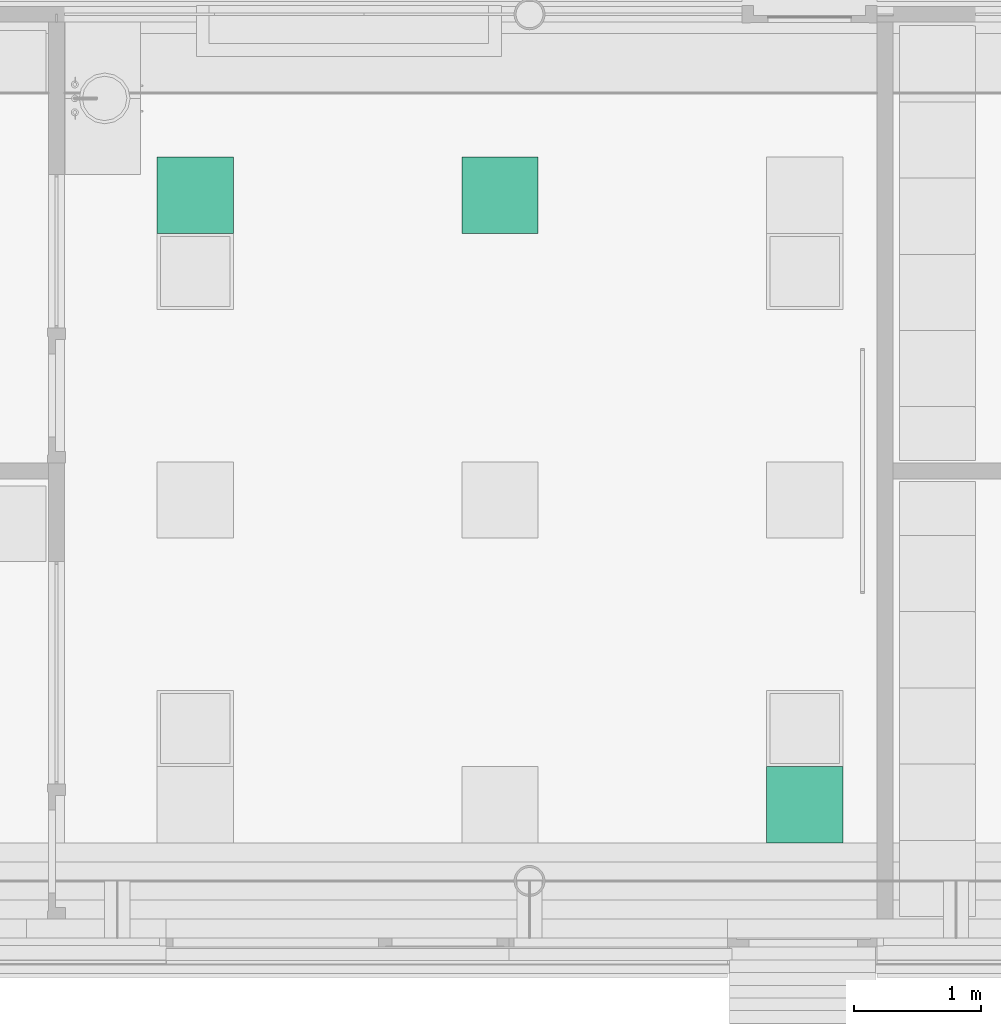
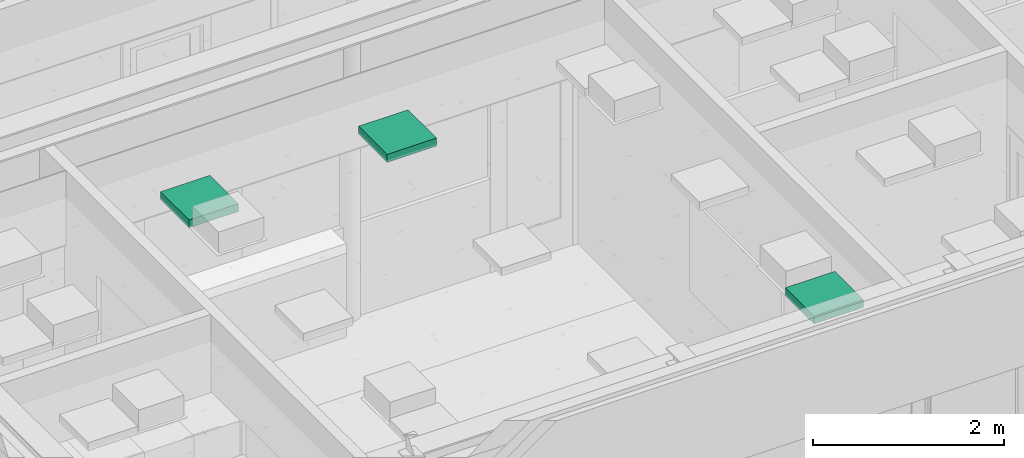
# One storey, part 186 of 347: 3 flow terminals.
"""IFC2X3 building model written with IfcOpenShell, lengths in millimetres."""

from ifc_helpers import new_model, entity, si_unit, converted_unit, derived_unit, money_unit, direction, frame, origin_with_axes, place, context, subcontext, project, spatial, open_shell, faceted_brep, surface_model, source, transform, mapped, type_object, type_shapes, element, save


model = new_model("IFC2X3")

# Units and contexts
model_context = context("Model", 3, precision=0.01, world=origin_with_axes(), true_north=direction((0.0, 1.0)))
plan_context = context("Plan", 3, precision=0.01, world=origin_with_axes(), true_north=direction((0.0, 1.0)))
body_context = subcontext(model_context, "Body", "Model", "MODEL_VIEW")
ifc_project = project(units=[si_unit("LENGTHUNIT", "METRE", prefix="MILLI"), si_unit("AREAUNIT", "SQUARE_METRE"), si_unit("VOLUMEUNIT", "CUBIC_METRE"), converted_unit("PLANEANGLEUNIT", "DEGREE", entity("IfcPlaneAngleMeasure", 0.0174532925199), si_unit("PLANEANGLEUNIT", "RADIAN"), dimensions=[0, 0, 0, 0, 0, 0, 0]), money_unit("EUR"), converted_unit("TIMEUNIT", "Year", entity("IfcTimeMeasure", 31556926.0), si_unit("TIMEUNIT", "SECOND"), dimensions=[0, 0, 1, 0, 0, 0, 0]), si_unit("MASSUNIT", "GRAM", prefix="KILO"), si_unit("THERMODYNAMICTEMPERATUREUNIT", "DEGREE_CELSIUS"), si_unit("LUMINOUSINTENSITYUNIT", "LUMEN"), si_unit("ENERGYUNIT", "JOULE", prefix="MEGA"), derived_unit("THERMALCONDUCTANCEUNIT", [(si_unit("POWERUNIT", "WATT"), 1), (si_unit("LENGTHUNIT", "METRE"), -1), (si_unit("THERMODYNAMICTEMPERATUREUNIT", "KELVIN"), -1)]), derived_unit("SPECIFICHEATCAPACITYUNIT", [(si_unit("ENERGYUNIT", "JOULE"), 1), (si_unit("MASSUNIT", "GRAM", prefix="KILO"), -1), (si_unit("THERMODYNAMICTEMPERATUREUNIT", "KELVIN"), -1)]), derived_unit("MASSDENSITYUNIT", [(si_unit("MASSUNIT", "GRAM", prefix="KILO"), 1), (si_unit("VOLUMEUNIT", "CUBIC_METRE"), -1)])], contexts=[model_context, plan_context])

# Site, building, storey
site_placement = place(None, origin_with_axes())
site = spatial("IfcSite", under=ifc_project, at=site_placement, Name="Site", CompositionType="ELEMENT")
building_placement = place(site_placement, origin_with_axes())
building = spatial("IfcBuilding", under=site, at=building_placement, Name="Naam gebouw", CompositionType="ELEMENT")
storey_placement = place(building_placement, origin_with_axes())
storey = spatial("IfcBuildingStorey", under=building, at=storey_placement, Name="begane grond", CompositionType="ELEMENT", Elevation=0.0)

# Flow terminals
lamp_type = type_object("IfcLampType", Name="TL plafond 25", PredefinedType="NOTDEFINED")
shared_shape = source(origin_with_axes(), body_context, "Body", "SurfaceModel", [
    faceted_brep([(0.0, 0.0, -100.0), (600.0, 0.0, -100.0), (600.0, 0.0, 0.0), (0.0, 0.0, 0.0), (0.0, 600.0, -100.0), (600.0, 600.0, -100.0), (40.0, 40.0, -100.0), (560.0, 40.0, -100.0), (560.0, 560.0, -100.0), (40.0, 560.0, -100.0), (600.0, 600.0, 0.0), (0.0, 600.0, 0.0), (40.0, 40.0, 0.0), (40.0, 560.0, 0.0), (560.0, 560.0, 0.0), (560.0, 40.0, 0.0)], [[[0, 1, 2, 3]], [[0, 4, 5, 1], [6, 7, 8, 9]], [[1, 5, 10, 2]], [[3, 2, 10, 11], [12, 13, 14, 15]], [[4, 0, 3, 11]], [[5, 4, 11, 10]], [[7, 6, 12, 15]], [[8, 7, 15, 14]], [[9, 8, 14, 13]], [[6, 9, 13, 12]]]),
    faceted_brep([(40.0, 40.0, -16.3333333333), (560.0, 40.0, -16.3333333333), (560.0, 40.0, 0.0), (40.0, 40.0, 0.0), (40.0, 560.0, -16.3333333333), (560.0, 560.0, -16.3333333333), (560.0, 560.0, 0.0), (40.0, 560.0, 0.0)], [[[0, 1, 2, 3]], [[0, 4, 5, 1]], [[1, 5, 6, 2]], [[3, 2, 6, 7]], [[4, 0, 3, 7]], [[5, 4, 7, 6]]]),
    surface_model("IfcShellBasedSurfaceModel", [(559.0, 41.0, -100.0), (40.0, 41.0, -100.0), (40.0, 559.0, -100.0), (559.0, 559.0, -100.0)], [open_shell([[[0, 1, 2, 3]]])]),
    faceted_brep([(40.0, 40.0, -100.0), (560.0, 40.0, -100.0), (560.0, 40.0, -60.0), (40.0, 40.0, -60.0), (40.0, 560.0, -100.0), (560.0, 560.0, -100.0), (41.0, 41.0, -100.0), (559.0, 41.0, -100.0), (559.0, 559.0, -100.0), (41.0, 559.0, -100.0), (560.0, 560.0, -60.0), (40.0, 560.0, -60.0), (41.0, 41.0, -60.0), (41.0, 559.0, -60.0), (559.0, 559.0, -60.0), (559.0, 41.0, -60.0)], [[[0, 1, 2, 3]], [[0, 4, 5, 1], [6, 7, 8, 9]], [[1, 5, 10, 2]], [[3, 2, 10, 11], [12, 13, 14, 15]], [[4, 0, 3, 11]], [[5, 4, 11, 10]], [[7, 6, 12, 15]], [[8, 7, 15, 14]], [[9, 8, 14, 13]], [[6, 9, 13, 12]]]),
    faceted_brep([(40.0, 144.0, -48.3333333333), (40.0, 149.740251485, -47.191526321), (560.0, 149.740251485, -47.191526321), (560.0, 144.0, -48.3333333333), (40.0, 138.259748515, -47.191526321), (40.0, 133.393398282, -43.9399350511), (40.0, 130.141807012, -39.0735848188), (40.0, 129.0, -33.3333333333), (40.0, 130.141807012, -27.5930818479), (40.0, 133.393398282, -22.7267316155), (40.0, 138.259748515, -19.4751403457), (40.0, 144.0, -18.3333333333), (40.0, 149.740251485, -19.4751403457), (40.0, 154.606601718, -22.7267316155), (40.0, 157.858192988, -27.5930818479), (40.0, 159.0, -33.3333333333), (40.0, 157.858192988, -39.0735848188), (40.0, 154.606601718, -43.9399350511), (40.0, 144.0, -46.3333333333), (40.0, 148.974884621, -45.343767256), (40.0, 153.192388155, -42.5257214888), (40.0, 156.010433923, -38.3082179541), (40.0, 157.0, -33.3333333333), (40.0, 156.010433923, -28.3584487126), (40.0, 153.192388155, -24.1409451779), (40.0, 148.974884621, -21.3228994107), (40.0, 144.0, -20.3333333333), (40.0, 139.025115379, -21.3228994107), (40.0, 134.807611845, -24.1409451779), (40.0, 131.989566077, -28.3584487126), (40.0, 131.0, -33.3333333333), (40.0, 131.989566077, -38.3082179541), (40.0, 134.807611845, -42.5257214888), (40.0, 139.025115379, -45.343767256), (560.0, 154.606601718, -43.9399350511), (560.0, 157.858192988, -39.0735848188), (560.0, 159.0, -33.3333333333), (560.0, 157.858192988, -27.5930818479), (560.0, 154.606601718, -22.7267316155), (560.0, 149.740251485, -19.4751403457), (560.0, 144.0, -18.3333333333), (560.0, 138.259748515, -19.4751403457), (560.0, 133.393398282, -22.7267316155), (560.0, 130.141807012, -27.5930818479), (560.0, 129.0, -33.3333333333), (560.0, 130.141807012, -39.0735848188), (560.0, 133.393398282, -43.9399350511), (560.0, 138.259748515, -47.191526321), (560.0, 144.0, -46.3333333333), (560.0, 139.025115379, -45.343767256), (560.0, 134.807611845, -42.5257214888), (560.0, 131.989566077, -38.3082179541), (560.0, 131.0, -33.3333333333), (560.0, 131.989566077, -28.3584487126), (560.0, 134.807611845, -24.1409451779), (560.0, 139.025115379, -21.3228994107), (560.0, 144.0, -20.3333333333), (560.0, 148.974884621, -21.3228994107), (560.0, 153.192388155, -24.1409451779), (560.0, 156.010433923, -28.3584487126), (560.0, 157.0, -33.3333333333), (560.0, 156.010433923, -38.3082179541), (560.0, 153.192388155, -42.5257214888), (560.0, 148.974884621, -45.343767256)], [[[0, 1, 2, 3]], [[0, 4, 5, 6, 7, 8, 9, 10, 11, 12, 13, 14, 15, 16, 17, 1], [18, 19, 20, 21, 22, 23, 24, 25, 26, 27, 28, 29, 30, 31, 32, 33]], [[1, 17, 34, 2]], [[3, 2, 34, 35, 36, 37, 38, 39, 40, 41, 42, 43, 44, 45, 46, 47], [48, 49, 50, 51, 52, 53, 54, 55, 56, 57, 58, 59, 60, 61, 62, 63]], [[4, 0, 3, 47]], [[5, 4, 47, 46]], [[6, 5, 46, 45]], [[7, 6, 45, 44]], [[8, 7, 44, 43]], [[9, 8, 43, 42]], [[10, 9, 42, 41]], [[11, 10, 41, 40]], [[12, 11, 40, 39]], [[13, 12, 39, 38]], [[14, 13, 38, 37]], [[15, 14, 37, 36]], [[16, 15, 36, 35]], [[17, 16, 35, 34]], [[19, 18, 48, 63]], [[20, 19, 63, 62]], [[21, 20, 62, 61]], [[22, 21, 61, 60]], [[23, 22, 60, 59]], [[24, 23, 59, 58]], [[25, 24, 58, 57]], [[26, 25, 57, 56]], [[27, 26, 56, 55]], [[28, 27, 55, 54]], [[29, 28, 54, 53]], [[30, 29, 53, 52]], [[31, 30, 52, 51]], [[32, 31, 51, 50]], [[33, 32, 50, 49]], [[18, 33, 49, 48]]]),
    faceted_brep([(40.0, 248.0, -48.3333333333), (40.0, 253.740251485, -47.191526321), (560.0, 253.740251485, -47.191526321), (560.0, 248.0, -48.3333333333), (40.0, 242.259748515, -47.191526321), (40.0, 237.393398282, -43.9399350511), (40.0, 234.141807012, -39.0735848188), (40.0, 233.0, -33.3333333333), (40.0, 234.141807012, -27.5930818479), (40.0, 237.393398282, -22.7267316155), (40.0, 242.259748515, -19.4751403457), (40.0, 248.0, -18.3333333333), (40.0, 253.740251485, -19.4751403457), (40.0, 258.606601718, -22.7267316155), (40.0, 261.858192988, -27.5930818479), (40.0, 263.0, -33.3333333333), (40.0, 261.858192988, -39.0735848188), (40.0, 258.606601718, -43.9399350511), (40.0, 248.0, -46.3333333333), (40.0, 252.974884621, -45.343767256), (40.0, 257.192388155, -42.5257214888), (40.0, 260.010433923, -38.3082179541), (40.0, 261.0, -33.3333333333), (40.0, 260.010433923, -28.3584487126), (40.0, 257.192388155, -24.1409451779), (40.0, 252.974884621, -21.3228994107), (40.0, 248.0, -20.3333333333), (40.0, 243.025115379, -21.3228994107), (40.0, 238.807611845, -24.1409451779), (40.0, 235.989566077, -28.3584487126), (40.0, 235.0, -33.3333333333), (40.0, 235.989566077, -38.3082179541), (40.0, 238.807611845, -42.5257214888), (40.0, 243.025115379, -45.343767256), (560.0, 258.606601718, -43.9399350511), (560.0, 261.858192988, -39.0735848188), (560.0, 263.0, -33.3333333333), (560.0, 261.858192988, -27.5930818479), (560.0, 258.606601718, -22.7267316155), (560.0, 253.740251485, -19.4751403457), (560.0, 248.0, -18.3333333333), (560.0, 242.259748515, -19.4751403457), (560.0, 237.393398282, -22.7267316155), (560.0, 234.141807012, -27.5930818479), (560.0, 233.0, -33.3333333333), (560.0, 234.141807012, -39.0735848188), (560.0, 237.393398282, -43.9399350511), (560.0, 242.259748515, -47.191526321), (560.0, 248.0, -46.3333333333), (560.0, 243.025115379, -45.343767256), (560.0, 238.807611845, -42.5257214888), (560.0, 235.989566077, -38.3082179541), (560.0, 235.0, -33.3333333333), (560.0, 235.989566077, -28.3584487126), (560.0, 238.807611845, -24.1409451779), (560.0, 243.025115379, -21.3228994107), (560.0, 248.0, -20.3333333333), (560.0, 252.974884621, -21.3228994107), (560.0, 257.192388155, -24.1409451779), (560.0, 260.010433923, -28.3584487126), (560.0, 261.0, -33.3333333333), (560.0, 260.010433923, -38.3082179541), (560.0, 257.192388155, -42.5257214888), (560.0, 252.974884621, -45.343767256)], [[[0, 1, 2, 3]], [[0, 4, 5, 6, 7, 8, 9, 10, 11, 12, 13, 14, 15, 16, 17, 1], [18, 19, 20, 21, 22, 23, 24, 25, 26, 27, 28, 29, 30, 31, 32, 33]], [[1, 17, 34, 2]], [[3, 2, 34, 35, 36, 37, 38, 39, 40, 41, 42, 43, 44, 45, 46, 47], [48, 49, 50, 51, 52, 53, 54, 55, 56, 57, 58, 59, 60, 61, 62, 63]], [[4, 0, 3, 47]], [[5, 4, 47, 46]], [[6, 5, 46, 45]], [[7, 6, 45, 44]], [[8, 7, 44, 43]], [[9, 8, 43, 42]], [[10, 9, 42, 41]], [[11, 10, 41, 40]], [[12, 11, 40, 39]], [[13, 12, 39, 38]], [[14, 13, 38, 37]], [[15, 14, 37, 36]], [[16, 15, 36, 35]], [[17, 16, 35, 34]], [[19, 18, 48, 63]], [[20, 19, 63, 62]], [[21, 20, 62, 61]], [[22, 21, 61, 60]], [[23, 22, 60, 59]], [[24, 23, 59, 58]], [[25, 24, 58, 57]], [[26, 25, 57, 56]], [[27, 26, 56, 55]], [[28, 27, 55, 54]], [[29, 28, 54, 53]], [[30, 29, 53, 52]], [[31, 30, 52, 51]], [[32, 31, 51, 50]], [[33, 32, 50, 49]], [[18, 33, 49, 48]]]),
    faceted_brep([(40.0, 352.0, -48.3333333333), (40.0, 357.740251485, -47.191526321), (560.0, 357.740251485, -47.191526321), (560.0, 352.0, -48.3333333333), (40.0, 346.259748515, -47.191526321), (40.0, 341.393398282, -43.9399350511), (40.0, 338.141807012, -39.0735848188), (40.0, 337.0, -33.3333333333), (40.0, 338.141807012, -27.5930818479), (40.0, 341.393398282, -22.7267316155), (40.0, 346.259748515, -19.4751403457), (40.0, 352.0, -18.3333333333), (40.0, 357.740251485, -19.4751403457), (40.0, 362.606601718, -22.7267316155), (40.0, 365.858192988, -27.5930818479), (40.0, 367.0, -33.3333333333), (40.0, 365.858192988, -39.0735848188), (40.0, 362.606601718, -43.9399350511), (40.0, 352.0, -46.3333333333), (40.0, 356.974884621, -45.343767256), (40.0, 361.192388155, -42.5257214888), (40.0, 364.010433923, -38.3082179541), (40.0, 365.0, -33.3333333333), (40.0, 364.010433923, -28.3584487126), (40.0, 361.192388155, -24.1409451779), (40.0, 356.974884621, -21.3228994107), (40.0, 352.0, -20.3333333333), (40.0, 347.025115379, -21.3228994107), (40.0, 342.807611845, -24.1409451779), (40.0, 339.989566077, -28.3584487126), (40.0, 339.0, -33.3333333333), (40.0, 339.989566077, -38.3082179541), (40.0, 342.807611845, -42.5257214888), (40.0, 347.025115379, -45.343767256), (560.0, 362.606601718, -43.9399350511), (560.0, 365.858192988, -39.0735848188), (560.0, 367.0, -33.3333333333), (560.0, 365.858192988, -27.5930818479), (560.0, 362.606601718, -22.7267316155), (560.0, 357.740251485, -19.4751403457), (560.0, 352.0, -18.3333333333), (560.0, 346.259748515, -19.4751403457), (560.0, 341.393398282, -22.7267316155), (560.0, 338.141807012, -27.5930818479), (560.0, 337.0, -33.3333333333), (560.0, 338.141807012, -39.0735848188), (560.0, 341.393398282, -43.9399350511), (560.0, 346.259748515, -47.191526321), (560.0, 352.0, -46.3333333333), (560.0, 347.025115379, -45.343767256), (560.0, 342.807611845, -42.5257214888), (560.0, 339.989566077, -38.3082179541), (560.0, 339.0, -33.3333333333), (560.0, 339.989566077, -28.3584487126), (560.0, 342.807611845, -24.1409451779), (560.0, 347.025115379, -21.3228994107), (560.0, 352.0, -20.3333333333), (560.0, 356.974884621, -21.3228994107), (560.0, 361.192388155, -24.1409451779), (560.0, 364.010433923, -28.3584487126), (560.0, 365.0, -33.3333333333), (560.0, 364.010433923, -38.3082179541), (560.0, 361.192388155, -42.5257214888), (560.0, 356.974884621, -45.343767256)], [[[0, 1, 2, 3]], [[0, 4, 5, 6, 7, 8, 9, 10, 11, 12, 13, 14, 15, 16, 17, 1], [18, 19, 20, 21, 22, 23, 24, 25, 26, 27, 28, 29, 30, 31, 32, 33]], [[1, 17, 34, 2]], [[3, 2, 34, 35, 36, 37, 38, 39, 40, 41, 42, 43, 44, 45, 46, 47], [48, 49, 50, 51, 52, 53, 54, 55, 56, 57, 58, 59, 60, 61, 62, 63]], [[4, 0, 3, 47]], [[5, 4, 47, 46]], [[6, 5, 46, 45]], [[7, 6, 45, 44]], [[8, 7, 44, 43]], [[9, 8, 43, 42]], [[10, 9, 42, 41]], [[11, 10, 41, 40]], [[12, 11, 40, 39]], [[13, 12, 39, 38]], [[14, 13, 38, 37]], [[15, 14, 37, 36]], [[16, 15, 36, 35]], [[17, 16, 35, 34]], [[19, 18, 48, 63]], [[20, 19, 63, 62]], [[21, 20, 62, 61]], [[22, 21, 61, 60]], [[23, 22, 60, 59]], [[24, 23, 59, 58]], [[25, 24, 58, 57]], [[26, 25, 57, 56]], [[27, 26, 56, 55]], [[28, 27, 55, 54]], [[29, 28, 54, 53]], [[30, 29, 53, 52]], [[31, 30, 52, 51]], [[32, 31, 51, 50]], [[33, 32, 50, 49]], [[18, 33, 49, 48]]]),
    faceted_brep([(40.0, 456.0, -48.3333333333), (40.0, 461.740251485, -47.191526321), (560.0, 461.740251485, -47.191526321), (560.0, 456.0, -48.3333333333), (40.0, 450.259748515, -47.191526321), (40.0, 445.393398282, -43.9399350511), (40.0, 442.141807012, -39.0735848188), (40.0, 441.0, -33.3333333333), (40.0, 442.141807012, -27.5930818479), (40.0, 445.393398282, -22.7267316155), (40.0, 450.259748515, -19.4751403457), (40.0, 456.0, -18.3333333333), (40.0, 461.740251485, -19.4751403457), (40.0, 466.606601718, -22.7267316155), (40.0, 469.858192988, -27.5930818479), (40.0, 471.0, -33.3333333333), (40.0, 469.858192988, -39.0735848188), (40.0, 466.606601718, -43.9399350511), (40.0, 456.0, -46.3333333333), (40.0, 460.974884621, -45.343767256), (40.0, 465.192388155, -42.5257214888), (40.0, 468.010433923, -38.3082179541), (40.0, 469.0, -33.3333333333), (40.0, 468.010433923, -28.3584487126), (40.0, 465.192388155, -24.1409451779), (40.0, 460.974884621, -21.3228994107), (40.0, 456.0, -20.3333333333), (40.0, 451.025115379, -21.3228994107), (40.0, 446.807611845, -24.1409451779), (40.0, 443.989566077, -28.3584487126), (40.0, 443.0, -33.3333333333), (40.0, 443.989566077, -38.3082179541), (40.0, 446.807611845, -42.5257214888), (40.0, 451.025115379, -45.343767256), (560.0, 466.606601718, -43.9399350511), (560.0, 469.858192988, -39.0735848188), (560.0, 471.0, -33.3333333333), (560.0, 469.858192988, -27.5930818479), (560.0, 466.606601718, -22.7267316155), (560.0, 461.740251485, -19.4751403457), (560.0, 456.0, -18.3333333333), (560.0, 450.259748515, -19.4751403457), (560.0, 445.393398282, -22.7267316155), (560.0, 442.141807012, -27.5930818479), (560.0, 441.0, -33.3333333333), (560.0, 442.141807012, -39.0735848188), (560.0, 445.393398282, -43.9399350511), (560.0, 450.259748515, -47.191526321), (560.0, 456.0, -46.3333333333), (560.0, 451.025115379, -45.343767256), (560.0, 446.807611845, -42.5257214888), (560.0, 443.989566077, -38.3082179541), (560.0, 443.0, -33.3333333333), (560.0, 443.989566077, -28.3584487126), (560.0, 446.807611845, -24.1409451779), (560.0, 451.025115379, -21.3228994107), (560.0, 456.0, -20.3333333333), (560.0, 460.974884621, -21.3228994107), (560.0, 465.192388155, -24.1409451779), (560.0, 468.010433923, -28.3584487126), (560.0, 469.0, -33.3333333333), (560.0, 468.010433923, -38.3082179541), (560.0, 465.192388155, -42.5257214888), (560.0, 460.974884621, -45.343767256)], [[[0, 1, 2, 3]], [[0, 4, 5, 6, 7, 8, 9, 10, 11, 12, 13, 14, 15, 16, 17, 1], [18, 19, 20, 21, 22, 23, 24, 25, 26, 27, 28, 29, 30, 31, 32, 33]], [[1, 17, 34, 2]], [[3, 2, 34, 35, 36, 37, 38, 39, 40, 41, 42, 43, 44, 45, 46, 47], [48, 49, 50, 51, 52, 53, 54, 55, 56, 57, 58, 59, 60, 61, 62, 63]], [[4, 0, 3, 47]], [[5, 4, 47, 46]], [[6, 5, 46, 45]], [[7, 6, 45, 44]], [[8, 7, 44, 43]], [[9, 8, 43, 42]], [[10, 9, 42, 41]], [[11, 10, 41, 40]], [[12, 11, 40, 39]], [[13, 12, 39, 38]], [[14, 13, 38, 37]], [[15, 14, 37, 36]], [[16, 15, 36, 35]], [[17, 16, 35, 34]], [[19, 18, 48, 63]], [[20, 19, 63, 62]], [[21, 20, 62, 61]], [[22, 21, 61, 60]], [[23, 22, 60, 59]], [[24, 23, 59, 58]], [[25, 24, 58, 57]], [[26, 25, 57, 56]], [[27, 26, 56, 55]], [[28, 27, 55, 54]], [[29, 28, 54, 53]], [[30, 29, 53, 52]], [[31, 30, 52, 51]], [[32, 31, 51, 50]], [[33, 32, 50, 49]], [[18, 33, 49, 48]]]),
])
type_shapes(lamp_type, [shared_shape])
for number, where, z_axis, x_axis, name in (
    (1, (8855.0, 10399.999972, 3295.0), (0.0, 0.0, 1.0), (1.0, 0.0, 0.0), "63_Lamp-x"),
    (2, (11255.0, 10399.999972, 3295.0), (0.0, 0.0, 1.0), (1.0, 0.0, 0.0), "63_Lamp-x"),
    (3, (13655.0, 5599.99997201, 3295.0), (0.0, 0.0, 1.0), (1.0, 0.0, 0.0), "63_Lamp-x"),
):
    element("IfcFlowTerminal", number, at=place(storey_placement, frame(where, z_axis=z_axis, x_axis=x_axis)), inside=storey, type_object=lamp_type, Name=name, ObjectType="Lamp", context=body_context, shape_type="MappedRepresentation", body=[
        mapped(shared_shape, transform((0.0, 0.0, 0.0))),
    ])

save(model, "model.ifc")
